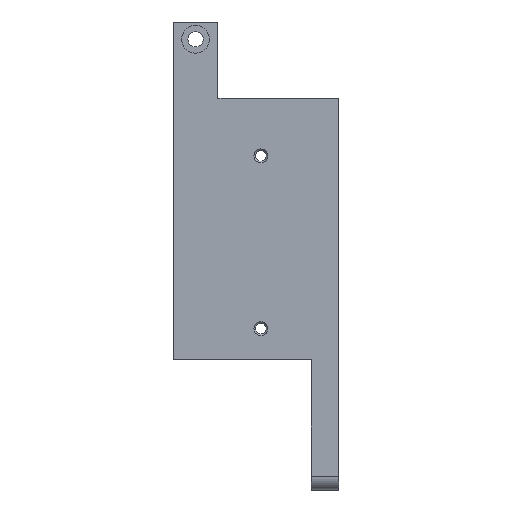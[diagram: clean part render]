
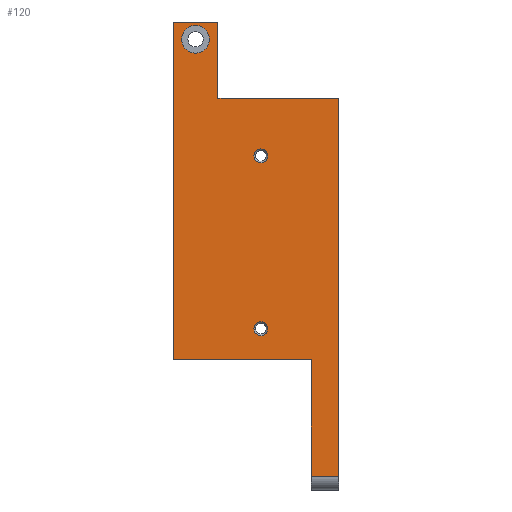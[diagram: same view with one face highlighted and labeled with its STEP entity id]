
A CAD part, left-side view. The second image highlights one B-rep face of the part: STEP entity #120.
In plain terms, the highlighted planar face has unit normal (-1, 0, 0).
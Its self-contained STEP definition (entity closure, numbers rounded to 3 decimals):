
#120=ADVANCED_FACE('',(#218,#219,#220,#169),#525,.T.);
#169=FACE_OUTER_BOUND('',#233,.F.);
#218=FACE_BOUND('',#230,.F.);
#219=FACE_BOUND('',#231,.F.);
#220=FACE_BOUND('',#232,.F.);
#230=EDGE_LOOP('',(#291,#292));
#231=EDGE_LOOP('',(#293,#294));
#232=EDGE_LOOP('',(#295,#296));
#233=EDGE_LOOP('',(#297,#298,#299,#300,#301,#302,#303,#304));
#291=ORIENTED_EDGE('',*,*,#1028,.T.);
#292=ORIENTED_EDGE('',*,*,#1027,.T.);
#293=ORIENTED_EDGE('',*,*,#1013,.T.);
#294=ORIENTED_EDGE('',*,*,#1014,.T.);
#295=ORIENTED_EDGE('',*,*,#999,.T.);
#296=ORIENTED_EDGE('',*,*,#998,.T.);
#297=ORIENTED_EDGE('',*,*,#1019,.T.);
#298=ORIENTED_EDGE('',*,*,#1016,.F.);
#299=ORIENTED_EDGE('',*,*,#1009,.T.);
#300=ORIENTED_EDGE('',*,*,#1008,.T.);
#301=ORIENTED_EDGE('',*,*,#1017,.F.);
#302=ORIENTED_EDGE('',*,*,#1015,.T.);
#303=ORIENTED_EDGE('',*,*,#1020,.T.);
#304=ORIENTED_EDGE('',*,*,#1021,.T.);
#525=PLANE('',#1269);
#871=LINE('',#1686,#936);
#872=LINE('',#1687,#937);
#874=LINE('',#1693,#939);
#875=LINE('',#1694,#940);
#876=LINE('',#1695,#941);
#878=LINE('',#1697,#943);
#879=LINE('',#1698,#944);
#880=LINE('',#1699,#945);
#936=VECTOR('',#1367,17.5);
#937=VECTOR('',#1368,11.);
#939=VECTOR('',#1378,4.);
#940=VECTOR('',#1379,6.5);
#941=VECTOR('',#1380,54.701);
#943=VECTOR('',#1382,48.861);
#944=VECTOR('',#1383,16.84);
#945=VECTOR('',#1384,20.);
#998=EDGE_CURVE('',#1212,#1211,#1115,.T.);
#999=EDGE_CURVE('',#1211,#1212,#1116,.T.);
#1008=EDGE_CURVE('',#1201,#1202,#871,.T.);
#1009=EDGE_CURVE('',#1200,#1201,#872,.T.);
#1013=EDGE_CURVE('',#1197,#1196,#1122,.T.);
#1014=EDGE_CURVE('',#1196,#1197,#1123,.T.);
#1015=EDGE_CURVE('',#1195,#1194,#874,.T.);
#1016=EDGE_CURVE('',#1200,#1193,#875,.T.);
#1017=EDGE_CURVE('',#1195,#1202,#876,.T.);
#1019=EDGE_CURVE('',#1191,#1193,#878,.T.);
#1020=EDGE_CURVE('',#1194,#1190,#879,.T.);
#1021=EDGE_CURVE('',#1190,#1191,#880,.T.);
#1027=EDGE_CURVE('',#1185,#1184,#1124,.T.);
#1028=EDGE_CURVE('',#1184,#1185,#1125,.T.);
#1115=CIRCLE('',#1243,2.);
#1116=CIRCLE('',#1244,2.);
#1122=CIRCLE('',#1250,1.);
#1123=CIRCLE('',#1251,1.);
#1124=CIRCLE('',#1252,1.);
#1125=CIRCLE('',#1253,1.);
#1184=VERTEX_POINT('',#1643);
#1185=VERTEX_POINT('',#1644);
#1190=VERTEX_POINT('',#1649);
#1191=VERTEX_POINT('',#1650);
#1193=VERTEX_POINT('',#1652);
#1194=VERTEX_POINT('',#1653);
#1195=VERTEX_POINT('',#1654);
#1196=VERTEX_POINT('',#1655);
#1197=VERTEX_POINT('',#1656);
#1200=VERTEX_POINT('',#1659);
#1201=VERTEX_POINT('',#1660);
#1202=VERTEX_POINT('',#1661);
#1211=VERTEX_POINT('',#1670);
#1212=VERTEX_POINT('',#1671);
#1243=AXIS2_PLACEMENT_3D('',#1676,#1352,#1353);
#1244=AXIS2_PLACEMENT_3D('',#1677,#1354,#1355);
#1250=AXIS2_PLACEMENT_3D('',#1691,#1374,#1375);
#1251=AXIS2_PLACEMENT_3D('',#1692,#1376,#1377);
#1252=AXIS2_PLACEMENT_3D('',#1705,#1390,#1391);
#1253=AXIS2_PLACEMENT_3D('',#1706,#1392,#1393);
#1269=AXIS2_PLACEMENT_3D('',#1749,#1451,#1452);
#1352=DIRECTION('',(-1.,0.,0.));
#1353=DIRECTION('',(0.,-1.,0.));
#1354=DIRECTION('',(-1.,0.,0.));
#1355=DIRECTION('',(0.,1.,0.));
#1367=DIRECTION('',(0.,-1.,0.));
#1368=DIRECTION('',(0.,0.,-1.));
#1374=DIRECTION('',(-1.,0.,0.));
#1375=DIRECTION('',(0.,0.,-1.));
#1376=DIRECTION('',(-1.,0.,0.));
#1377=DIRECTION('',(0.,0.,1.));
#1378=DIRECTION('',(0.,1.,0.));
#1379=DIRECTION('',(0.,1.,0.));
#1380=DIRECTION('',(0.,0.,1.));
#1382=DIRECTION('',(0.,0.,1.));
#1383=DIRECTION('',(0.,0.,1.));
#1384=DIRECTION('',(0.,1.,0.));
#1390=DIRECTION('',(-1.,0.,0.));
#1391=DIRECTION('',(0.,0.,1.));
#1392=DIRECTION('',(-1.,0.,0.));
#1393=DIRECTION('',(0.,0.,-1.));
#1451=DIRECTION('',(-1.,0.,0.));
#1452=DIRECTION('',(0.,0.,1.));
#1643=CARTESIAN_POINT('',(763.256,487.361,321.695));
#1644=CARTESIAN_POINT('',(763.256,487.361,323.695));
#1649=CARTESIAN_POINT('',(763.256,480.061,318.195));
#1650=CARTESIAN_POINT('',(763.256,500.061,318.195));
#1652=CARTESIAN_POINT('',(763.256,500.061,367.056));
#1653=CARTESIAN_POINT('',(763.256,480.061,301.355));
#1654=CARTESIAN_POINT('',(763.256,476.061,301.355));
#1655=CARTESIAN_POINT('',(763.256,487.361,348.695));
#1656=CARTESIAN_POINT('',(763.256,487.361,346.695));
#1659=CARTESIAN_POINT('',(763.256,493.561,367.056));
#1660=CARTESIAN_POINT('',(763.256,493.561,356.056));
#1661=CARTESIAN_POINT('',(763.256,476.061,356.056));
#1670=CARTESIAN_POINT('',(763.256,498.811,364.556));
#1671=CARTESIAN_POINT('',(763.256,494.811,364.556));
#1676=CARTESIAN_POINT('',(763.256,496.811,364.556));
#1677=CARTESIAN_POINT('',(763.256,496.811,364.556));
#1686=CARTESIAN_POINT('',(763.256,493.561,356.056));
#1687=CARTESIAN_POINT('',(763.256,493.561,367.056));
#1691=CARTESIAN_POINT('',(763.256,487.361,347.695));
#1692=CARTESIAN_POINT('',(763.256,487.361,347.695));
#1693=CARTESIAN_POINT('',(763.256,476.061,301.355));
#1694=CARTESIAN_POINT('',(763.256,493.561,367.056));
#1695=CARTESIAN_POINT('',(763.256,476.061,301.355));
#1697=CARTESIAN_POINT('',(763.256,500.061,318.195));
#1698=CARTESIAN_POINT('',(763.256,480.061,301.355));
#1699=CARTESIAN_POINT('',(763.256,480.061,318.195));
#1705=CARTESIAN_POINT('',(763.256,487.361,322.695));
#1706=CARTESIAN_POINT('',(763.256,487.361,322.695));
#1749=CARTESIAN_POINT('',(763.256,475.404,300.698));
